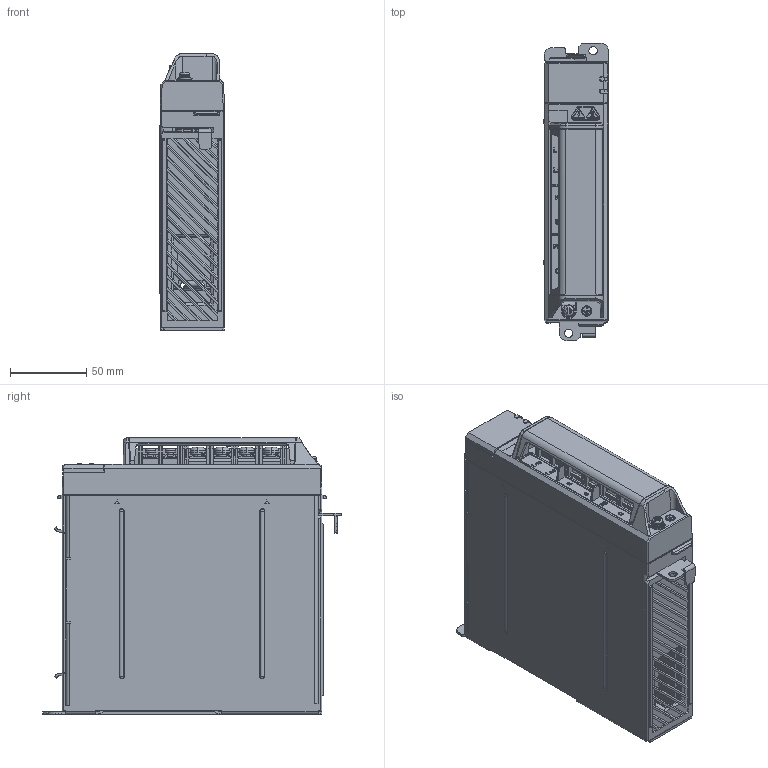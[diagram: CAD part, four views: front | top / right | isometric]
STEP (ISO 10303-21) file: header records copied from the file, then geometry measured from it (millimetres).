
FILE_DESCRIPTION((''),'2;1');
FILE_NAME('DELTA_IA-ASDA_W3-PM5021_FRAME-A','2025-09-08T13:32:53',('SUMMERS.CHEN'),(''),'CREO PARAMETRIC BY PTC INC, 2024014','CREO PARAMETRIC BY PTC INC, 2024014','');
FILE_SCHEMA(('AUTOMOTIVE_DESIGN { 1 0 10303 214 1 1 1 1 }'));
Products named in the file (1): DELTA_IA-ASDA_W3-PM5021_FRAME-A
Bounding box: 42.59 x 195 x 181 mm (x, y, z)
Volume: 294584.3 mm3; surface area: 246808 mm2
Topology: 1 solids, 1 shells, 3421 faces, 9881 edges, 6481 vertices
Faces by surface type: plane 2292, cylinder 680, extrusion 191, cone 110, bspline 83, torus 47, sphere 18
Entity records: 120282 total; most frequent: CARTESIAN_POINT 31395, ORIENTED_EDGE 19734, DIRECTION 16634, EDGE_CURVE 9867, VECTOR 7200, LINE 7009, VERTEX_POINT 6481, AXIS2_PLACEMENT_3D 4717
